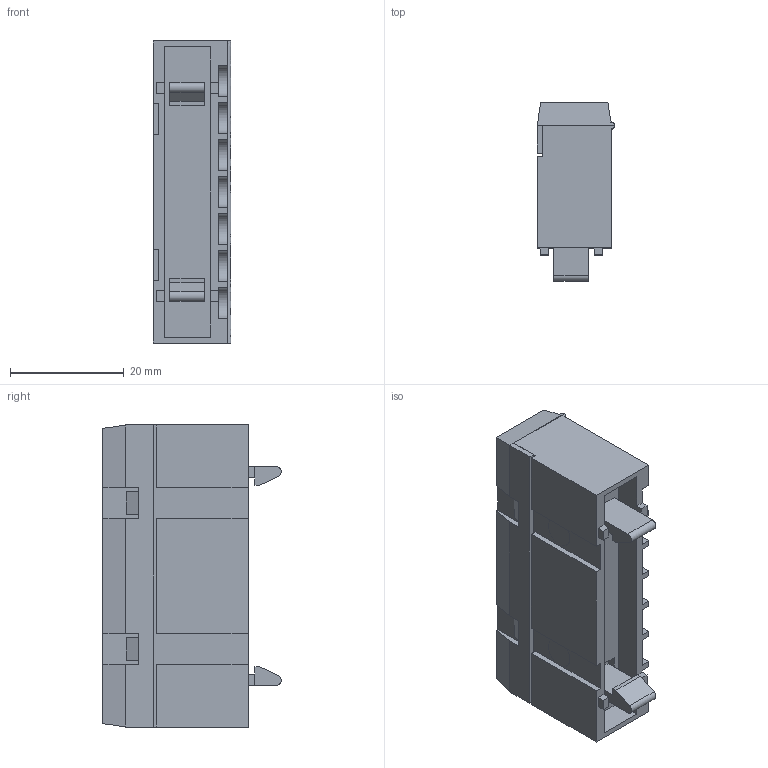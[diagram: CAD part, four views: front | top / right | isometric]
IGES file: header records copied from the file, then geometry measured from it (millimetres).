
Start section: SolidWorks IGES file using analytic representation for surfaces
Global section: file name: D:\3D modely\XXXXXXX NOVÉ SLOŽKY 3D MODELY\IGES\Minia\CS-_\CS-L7.IGS; native system: SolidWorks 2015; preprocessor: SolidWorks 2015; author: adhrja3; date: 180905.103652; units: millimetre
Bounding box: 13.6 x 31.3 x 53 mm (x, y, z)
Surface area: 14309.3 mm2 (no closed solid volume)
Topology: 0 solids, 0 shells, 354 faces, 4390 edges, 4390 vertices
Faces by surface type: bspline 246, revolution 108
